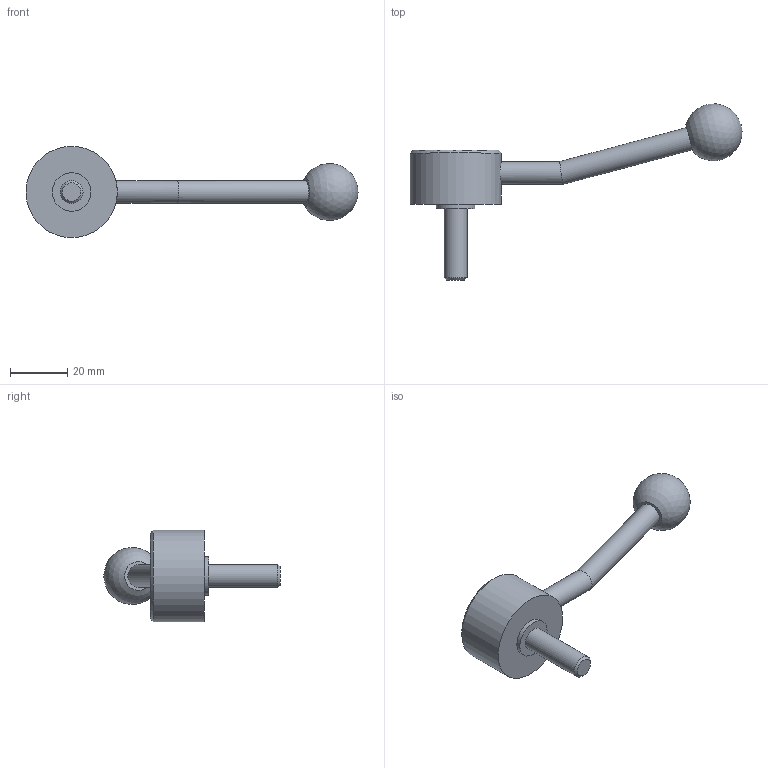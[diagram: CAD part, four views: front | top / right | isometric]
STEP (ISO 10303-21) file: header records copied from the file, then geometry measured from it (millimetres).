
FILE_DESCRIPTION( ( 'STEP AP203' ), '1' );
FILE_NAME( 'C:/Temp/Ganter_Step_05_03_2020/data/2_1/gn_125/gn_125_ms/gn_125_ms_e/Flat Adjustable Lever GN 125-32-M8-25-E.stp', '2020-03-05T11:00:54', ( 'License CC BY-ND 4.0' ), ( 'CADENAS' ), ' ', 'PARTsolutions', ' ' );
FILE_SCHEMA( ( 'CONFIG_CONTROL_DESIGN' ) );
Length unit declared in the file: millimetre
Products named in the file (1): _Flat Adjustable Lever GN 125-32-M8-25-E
Bounding box: 116.34 x 61.72 x 32 mm (x, y, z)
Volume: 24137.6 mm3; surface area: 7010.4 mm2
Topology: 1 solids, 1 shells, 15 faces, 26 edges, 17 vertices
Faces by surface type: cylinder 6, plane 6, cone 2, sphere 1
Full cylindrical faces by diameter (mm): 8 x3, 13.5 x1, 22 x1, 32 x1
Entity records: 404 total; most frequent: CARTESIAN_POINT 110, DIRECTION 58, AXIS2_PLACEMENT_3D 29, EDGE_LOOP 28, ORIENTED_EDGE 28, FACE_OUTER_BOUND 21, ADVANCED_FACE 15, VERTEX_POINT 15
